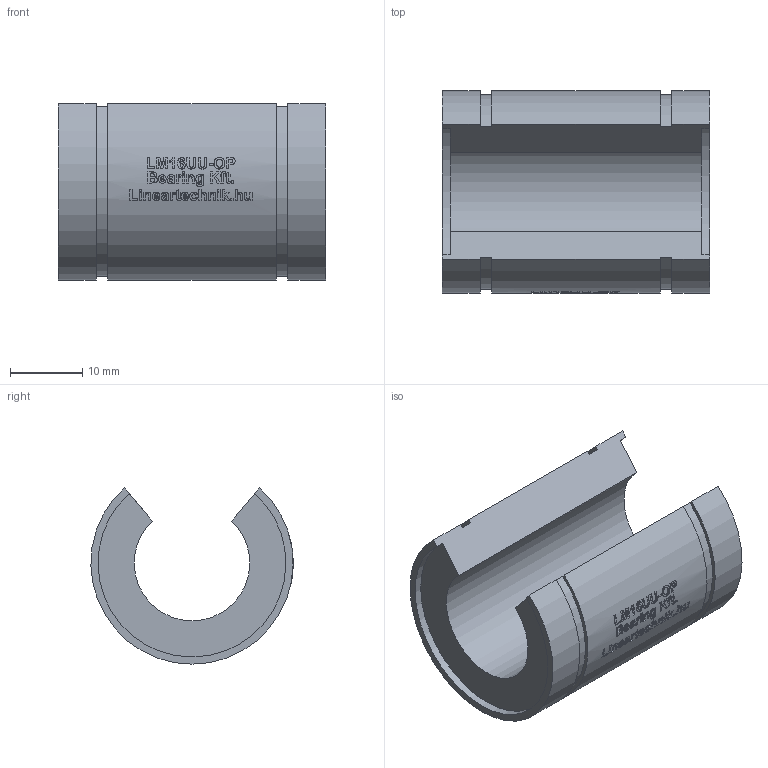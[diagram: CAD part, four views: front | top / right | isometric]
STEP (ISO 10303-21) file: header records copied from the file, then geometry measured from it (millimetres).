
FILE_DESCRIPTION(/* description */ (''),/* implementation_level */ '2;1');
FILE_NAME(/* name */ 'LM16UU-OP',/* time_stamp */ '2019-07-10T16:11:16+02:00',/* author */ ('VĂ©gh MĂˇtĂ©'),/* organization */ ('Bearing Kft'),/* preprocessor_version */ 'ST-DEVELOPER v16.7',/* originating_system */ 'DEX',/* authorisation */ $);
FILE_SCHEMA (('AUTOMOTIVE_DESIGN {1 0 10303 214 3 1 1}'));
Length unit declared in the file: millimetre
Products named in the file (1): LM16UU-OP
Bounding box: 37 x 28 x 24.41 mm (x, y, z)
Volume: 11058.7 mm3; surface area: 5159.2 mm2
Topology: 1 solids, 1 shells, 324 faces, 817 edges, 545 vertices
Faces by surface type: plane 170, bspline 96, cylinder 58
Entity records: 15710 total; most frequent: CARTESIAN_POINT 8389, ORIENTED_EDGE 1626, DIRECTION 1238, EDGE_CURVE 813, VERTEX_POINT 545, LINE 458, VECTOR 458, AXIS2_PLACEMENT_3D 390
